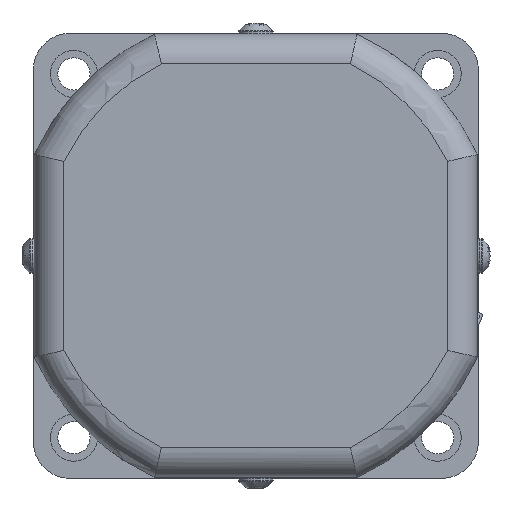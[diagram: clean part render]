
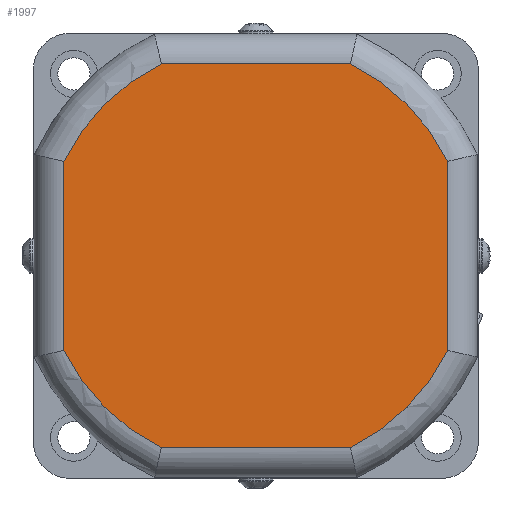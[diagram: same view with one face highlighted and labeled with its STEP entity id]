
A CAD part, left-side view. The second image highlights one B-rep face of the part: STEP entity #1997.
In plain terms, the highlighted planar face has unit normal (-1, 0, 0).
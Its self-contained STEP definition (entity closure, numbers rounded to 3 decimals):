
#1655=CARTESIAN_POINT('',(-23.,-38.8,19.108));
#1656=VERTEX_POINT('',#1655);
#1681=CARTESIAN_POINT('',(-23.,-19.108,38.8));
#1682=VERTEX_POINT('',#1681);
#1700=CARTESIAN_POINT('',(-23.,0.,0.));
#1701=DIRECTION('',(1.0,0.,0.));
#1702=DIRECTION('',(0.,-0.707,0.707));
#1703=AXIS2_PLACEMENT_3D('',#1700,#1701,#1702);
#1704=CIRCLE('',#1703,43.25);
#1705=EDGE_CURVE('',#1682,#1656,#1704,.T.);
#1715=CARTESIAN_POINT('',(-23.,19.108,38.8));
#1716=VERTEX_POINT('',#1715);
#1734=CARTESIAN_POINT('',(-23.,19.108,38.8));
#1735=DIRECTION('',(0.0,-1.0,0.0));
#1736=VECTOR('',#1735,38.216);
#1737=LINE('',#1734,#1736);
#1738=EDGE_CURVE('',#1716,#1682,#1737,.T.);
#1750=CARTESIAN_POINT('',(-23.,-38.8,-19.108));
#1751=VERTEX_POINT('',#1750);
#1771=CARTESIAN_POINT('',(-23.,-38.8,19.108));
#1772=DIRECTION('',(0.0,0.0,-1.0));
#1773=VECTOR('',#1772,38.216);
#1774=LINE('',#1771,#1773);
#1775=EDGE_CURVE('',#1656,#1751,#1774,.T.);
#1785=CARTESIAN_POINT('',(-23.,38.8,19.108));
#1786=VERTEX_POINT('',#1785);
#1804=CARTESIAN_POINT('',(-23.,0.,0.));
#1805=DIRECTION('',(1.0,0.,0.));
#1806=DIRECTION('',(0.,0.707,0.707));
#1807=AXIS2_PLACEMENT_3D('',#1804,#1805,#1806);
#1808=CIRCLE('',#1807,43.25);
#1809=EDGE_CURVE('',#1786,#1716,#1808,.T.);
#1827=CARTESIAN_POINT('',(-23.,-19.108,-38.8));
#1828=VERTEX_POINT('',#1827);
#1854=CARTESIAN_POINT('',(-23.,0.,0.));
#1855=DIRECTION('',(1.0,0.,0.));
#1856=DIRECTION('',(0.,-0.707,-0.707));
#1857=AXIS2_PLACEMENT_3D('',#1854,#1855,#1856);
#1858=CIRCLE('',#1857,43.25);
#1859=EDGE_CURVE('',#1751,#1828,#1858,.T.);
#1869=CARTESIAN_POINT('',(-23.,38.8,-19.108));
#1870=VERTEX_POINT('',#1869);
#1888=CARTESIAN_POINT('',(-23.,38.8,-19.108));
#1889=DIRECTION('',(0.0,0.0,1.0));
#1890=VECTOR('',#1889,38.216);
#1891=LINE('',#1888,#1890);
#1892=EDGE_CURVE('',#1870,#1786,#1891,.T.);
#1904=CARTESIAN_POINT('',(-23.,19.108,-38.8));
#1905=VERTEX_POINT('',#1904);
#1925=CARTESIAN_POINT('',(-23.,-19.108,-38.8));
#1926=DIRECTION('',(0.0,1.0,0.0));
#1927=VECTOR('',#1926,38.216);
#1928=LINE('',#1925,#1927);
#1929=EDGE_CURVE('',#1828,#1905,#1928,.T.);
#1940=CARTESIAN_POINT('',(-23.,0.,0.));
#1941=DIRECTION('',(1.,0.,0.));
#1942=DIRECTION('',(0.,0.707,-0.707));
#1943=AXIS2_PLACEMENT_3D('',#1940,#1941,#1942);
#1944=CIRCLE('',#1943,43.25);
#1945=EDGE_CURVE('',#1905,#1870,#1944,.T.);
#1982=CARTESIAN_POINT('',(-23.,0.,0.));
#1983=DIRECTION('',(1.0,0.0,0.0));
#1984=DIRECTION('',(0.0,-1.0,0.0));
#1985=AXIS2_PLACEMENT_3D('',#1982,#1983,#1984);
#1986=PLANE('',#1985);
#1987=ORIENTED_EDGE('',*,*,#1929,.F.);
#1988=ORIENTED_EDGE('',*,*,#1859,.F.);
#1989=ORIENTED_EDGE('',*,*,#1775,.F.);
#1990=ORIENTED_EDGE('',*,*,#1705,.F.);
#1991=ORIENTED_EDGE('',*,*,#1738,.F.);
#1992=ORIENTED_EDGE('',*,*,#1809,.F.);
#1993=ORIENTED_EDGE('',*,*,#1892,.F.);
#1994=ORIENTED_EDGE('',*,*,#1945,.F.);
#1995=EDGE_LOOP('',(#1987,#1988,#1989,#1990,#1991,#1992,#1993,#1994));
#1996=FACE_OUTER_BOUND('',#1995,.T.);
#1997=ADVANCED_FACE('',(#1996),#1986,.F.);
